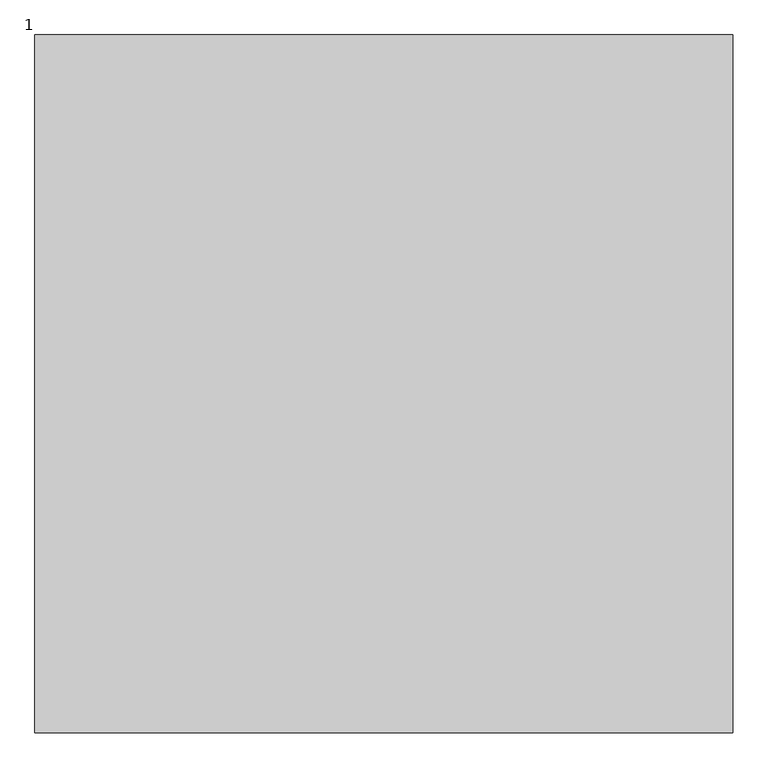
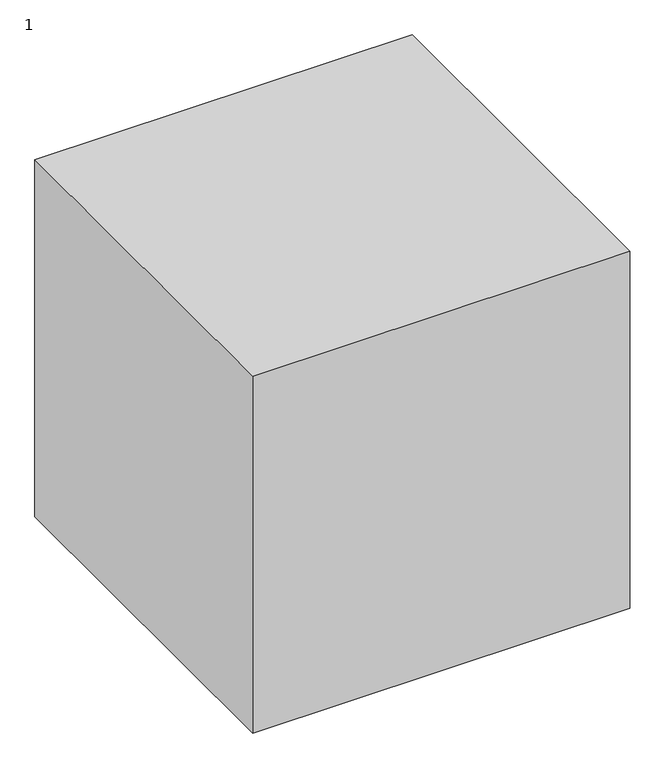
"""IFC4 building model written with IfcOpenShell, lengths in millimetres: proxy geometry, 12221111111 : 1."""

from ifc_helpers import new_model, si_unit, origin, origin_with_axes, place, context, project, spatial, polyline, outline, extrude, source, transform, mapped, element, save


def proxy_1_80903762(model_context):
    return source(origin(), model_context, "Body", "SweptSolid", [
        extrude(outline(polyline([(27692.0243292, 11335.2294472), (27692.0243292, 10335.2294472), (26692.0243292, 10335.2294472), (26692.0243292, 11335.2294472), (27692.0243292, 11335.2294472)])), origin_with_axes(), (0.0, 0.0, 1.0), 1000.0),
    ])


if __name__ == "__main__":
    model = new_model("IFC4")
    model_context = context("Model", 3, world=origin())
    ifc_project = project(units=[si_unit("LENGTHUNIT", "METRE", prefix="MILLI")], contexts=[model_context])
    site = spatial("IfcSite", under=ifc_project)
    building = spatial("IfcBuilding", under=site)
    placement = place(None, origin())
    proxy_1_shape = proxy_1_80903762(model_context)
    element("IfcBuildingElementProxy", 1, Name="12221111111 : 1", ObjectType="12221111111 : 1", at=placement, inside=building, context=model_context, shape_type="MappedRepresentation", body=[
        mapped(proxy_1_shape, transform((0.0, 0.0, 0.0), x_axis=(1.0, 0.0, 0.0), y_axis=(0.0, 1.0, 0.0), z_axis=(0.0, 0.0, 1.0))),
    ])
    save(model, "model.ifc")
